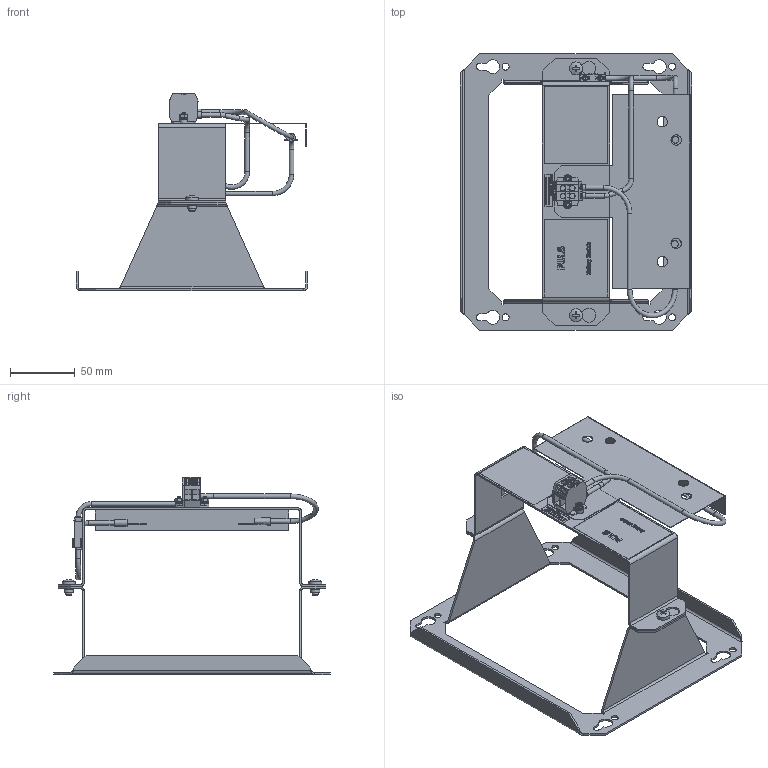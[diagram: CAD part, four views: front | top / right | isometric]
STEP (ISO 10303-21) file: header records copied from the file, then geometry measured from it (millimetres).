
FILE_DESCRIPTION(/* description */ (''),/* implementation_level */ '2;1');
FILE_NAME(/* name */ 'L:\MKT-GER\Neue Webdokumente\Daten von KO\Internet\UZO12.261 (AZ-359.03)\md3_uzo12_261.stp',/* time_stamp */ '2019-02-25T11:13:31+01:00',/* author */ ('rahns'),/* organization */ (''),/* preprocessor_version */ 'ST-DEVELOPER v17',/* originating_system */ 'Autodesk Inventor 2018',/* authorisation */ '3840739,9 mm^3');
FILE_SCHEMA (('AUTOMOTIVE_DESIGN { 1 0 10303 214 3 1 1 }'));
Length unit declared in the file: millimetre
Products named in the file (22): 359.05; WALL MOUNT 359; SCREW M5x8; BATTERY BRACKET 359; INSULATION FOIL 359.02; TERMINAL 359.00; ISO 7046-1 - M3 x 10 - 4.8 - H; ED-M30_934-10; ED-B30_127-10; MKT_WASHER 3; FRONTFOIL 359.02; LABEL1 359.02; LABEL2 359.02; WIRE BLACK 359.02_2; XS-RINGKASCH2-10; WI-359.780.02_Wire_mont_Yuasa-Batterie; WIRE RED 359.02_2; FH-FKH-10; FH-FKH_CONT-10; WI-359.772.00_Wire_red_mont_Yuasa-Batterie; XS-RINGKASCH3-10; XS-ADERHU25GR-30
Assembly tree (28 placements, depth 3):
  359.05
    WALL MOUNT 359
    SCREW M5x8  x2
    BATTERY BRACKET 359
    INSULATION FOIL 359.02
    TERMINAL 359.00
    ISO 7046-1 - M3 x 10 - 4.8 - H  x2
    ED-M30_934-10  x2
    ED-B30_127-10  x2
    MKT_WASHER 3  x2
    FRONTFOIL 359.02
    LABEL1 359.02
    LABEL2 359.02
    WIRE BLACK 359.02_2
      XS-RINGKASCH2-10
      WI-359.780.02_Wire_mont_Yuasa-Batterie
      XS-ADERHU25GR-30
    WIRE RED 359.02_2
      FH-FKH-10
      FH-FKH_CONT-10  x2
      WI-359.772.00_Wire_red_mont_Yuasa-Batterie
      XS-RINGKASCH3-10
      XS-ADERHU25GR-30
Bounding box: 179 x 214 x 152.5 mm (x, y, z)
Volume: 93527.9 mm3; surface area: 155490.9 mm2
Topology: 28 solids, 30 shells, 1755 faces, 4718 edges, 3133 vertices
Faces by surface type: plane 1152, bspline 319, cylinder 218, cone 45, torus 19, sphere 2
Full cylindrical faces by diameter (mm): 2 x6, 2.2 x2, 2.459 x2, 2.6 x2, 2.693 x2, 3 x5, 3.2 x2, 3.4 x1, 3.6 x12, 4 x4, 4.1 x4, 4.2 x2, 4.3 x4, 4.5 x1, 4.8 x3, 5 x4, 5.3 x1, 5.4 x5, 5.5 x2, 6 x2, 7 x2, 8 x4, 10 x2
Entity records: 51779 total; most frequent: CARTESIAN_POINT 12761, ORIENTED_EDGE 8498, DIRECTION 6671, EDGE_CURVE 4249, LINE 3091, VECTOR 3091, VERTEX_POINT 2825, AXIS2_PLACEMENT_3D 1790
